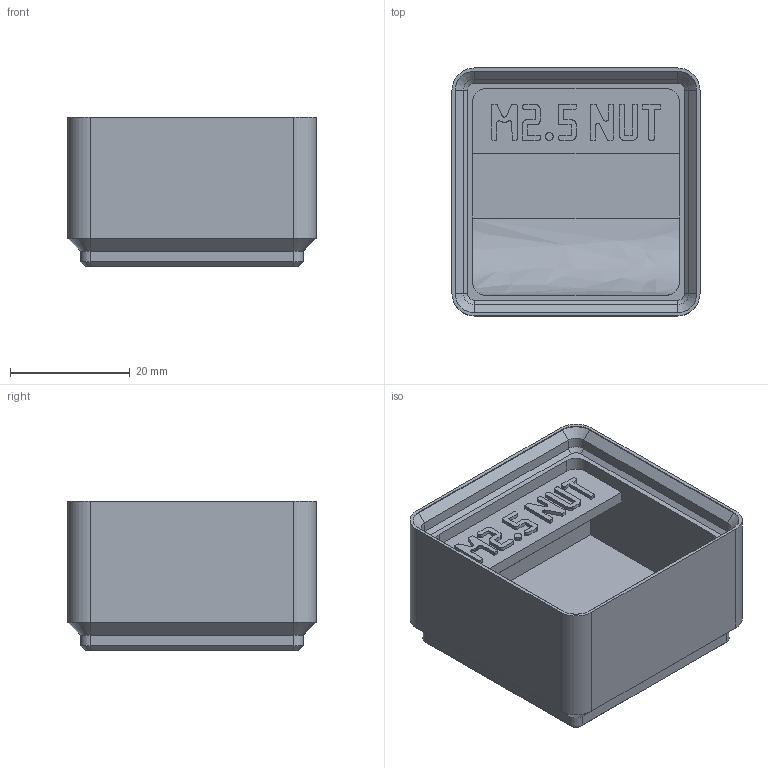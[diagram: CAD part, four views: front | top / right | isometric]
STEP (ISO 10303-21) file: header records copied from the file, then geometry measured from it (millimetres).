
FILE_DESCRIPTION(('Open CASCADE Model'),'2;1');
FILE_NAME('m2p5-nut','2026-11-17T16:08:02',('Author'),('Open CASCADE'), 'Open CASCADE STEP processor 8.0','build123d','Unknown');
FILE_SCHEMA(('AUTOMOTIVE_DESIGN { 1 0 10303 214 1 1 1 1 }'));
Length unit declared in the file: millimetre
Products named in the file (1): m2p5-nut
Bounding box: 41.5 x 41.5 x 25 mm (x, y, z)
Volume: 22478.1 mm3; surface area: 9539.2 mm2
Topology: 1 solids, 1 shells, 689 faces, 1986 edges, 1308 vertices
Faces by surface type: plane 652, cylinder 20, cone 16, extrusion 1
Entity records: 46828 total; most frequent: CARTESIAN_POINT 9529, DIRECTION 6049, VECTOR 4561, LINE 4560, ORIENTED_EDGE 3972, PCURVE 3972, DEFINITIONAL_REPRESENTATION 3972, EDGE_CURVE 1986
